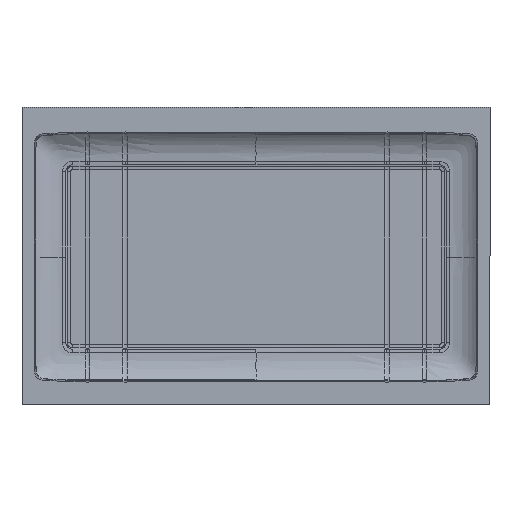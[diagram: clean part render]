
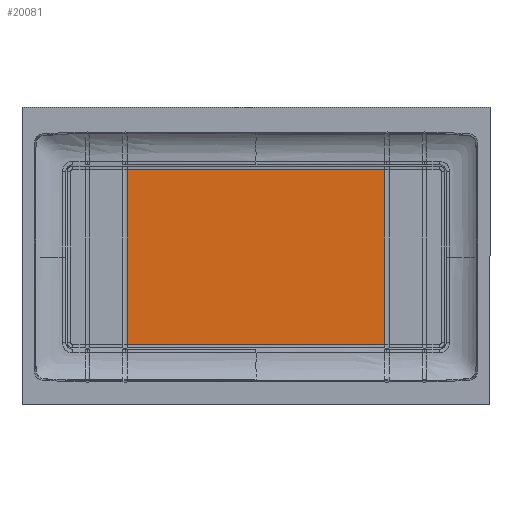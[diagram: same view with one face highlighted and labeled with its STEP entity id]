
A CAD part, front view. The second image highlights one B-rep face of the part: STEP entity #20081.
In plain terms, the highlighted planar face has unit normal (0, -1, 0).
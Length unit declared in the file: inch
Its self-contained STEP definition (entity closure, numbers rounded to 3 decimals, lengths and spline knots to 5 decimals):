
#1975 = ORIENTED_EDGE ( 'NONE', *, *, #9128, .F. ) ;
#8220 = CARTESIAN_POINT ( 'NONE',  ( 6.04321, 2.04, -4.09403 ) ) ;
#9068 = CARTESIAN_POINT ( 'NONE',  ( -6.04321, 2.04, -4.09403 ) ) ;
#9094 = VERTEX_POINT ( 'NONE', #21523 ) ;
#9128 = EDGE_CURVE ( 'NONE', #22675, #9094, #18144, .T. ) ;
#9138 = EDGE_CURVE ( 'NONE', #22675, #33279, #18252, .T. ) ;
#9215 = EDGE_CURVE ( 'NONE', #34467, #33279, #18421, .T. ) ;
#9296 = EDGE_CURVE ( 'NONE', #34467, #9094, #10268, .T. ) ;
#10268 = LINE ( 'NONE', #24636, #17601 ) ;
#13032 = PLANE ( 'NONE',  #57209 ) ;
#17601 = VECTOR ( 'NONE', #24571, 39.37008 ) ;
#17737 = DIRECTION ( 'NONE',  ( 0., 1., 0. ) ) ;
#17775 = VECTOR ( 'NONE', #24368, 39.37008 ) ;
#18013 = VECTOR ( 'NONE', #19337, 39.37008 ) ;
#18144 = LINE ( 'NONE', #21392, #18013 ) ;
#18156 = VECTOR ( 'NONE', #24039, 39.37008 ) ;
#18252 = LINE ( 'NONE', #24562, #18156 ) ;
#18421 = LINE ( 'NONE', #23912, #17775 ) ;
#19337 = DIRECTION ( 'NONE',  ( 0., 0., 1. ) ) ;
#20081 = ADVANCED_FACE ( 'NONE', ( #42787 ), #13032, .F. ) ;
#21392 = CARTESIAN_POINT ( 'NONE',  ( -6.04321, 2.04, 4.09403 ) ) ;
#21523 = CARTESIAN_POINT ( 'NONE',  ( -6.04321, 2.04, 4.09403 ) ) ;
#22174 = CARTESIAN_POINT ( 'NONE',  ( 0., 2.04, 0. ) ) ;
#22675 = VERTEX_POINT ( 'NONE', #9068 ) ;
#23912 = CARTESIAN_POINT ( 'NONE',  ( 6.04321, 2.04, 4.09403 ) ) ;
#24039 = DIRECTION ( 'NONE',  ( 1., 0., 0. ) ) ;
#24368 = DIRECTION ( 'NONE',  ( 0., 0., -1. ) ) ;
#24562 = CARTESIAN_POINT ( 'NONE',  ( 0., 2.04, -4.09403 ) ) ;
#24571 = DIRECTION ( 'NONE',  ( -1., 0., 0. ) ) ;
#24636 = CARTESIAN_POINT ( 'NONE',  ( 0., 2.04, 4.09403 ) ) ;
#30872 = ORIENTED_EDGE ( 'NONE', *, *, #9215, .F. ) ;
#30982 = ORIENTED_EDGE ( 'NONE', *, *, #9296, .T. ) ;
#31262 = ORIENTED_EDGE ( 'NONE', *, *, #9138, .T. ) ;
#33279 = VERTEX_POINT ( 'NONE', #8220 ) ;
#34467 = VERTEX_POINT ( 'NONE', #48925 ) ;
#42787 = FACE_OUTER_BOUND ( 'NONE', #52548, .T. ) ;
#48925 = CARTESIAN_POINT ( 'NONE',  ( 6.04321, 2.04, 4.09403 ) ) ;
#49177 = DIRECTION ( 'NONE',  ( 0., 0., 1. ) ) ;
#52548 = EDGE_LOOP ( 'NONE', ( #1975, #31262, #30872, #30982 ) ) ;
#57209 = AXIS2_PLACEMENT_3D ( 'NONE', #22174, #17737, #49177 ) ;
